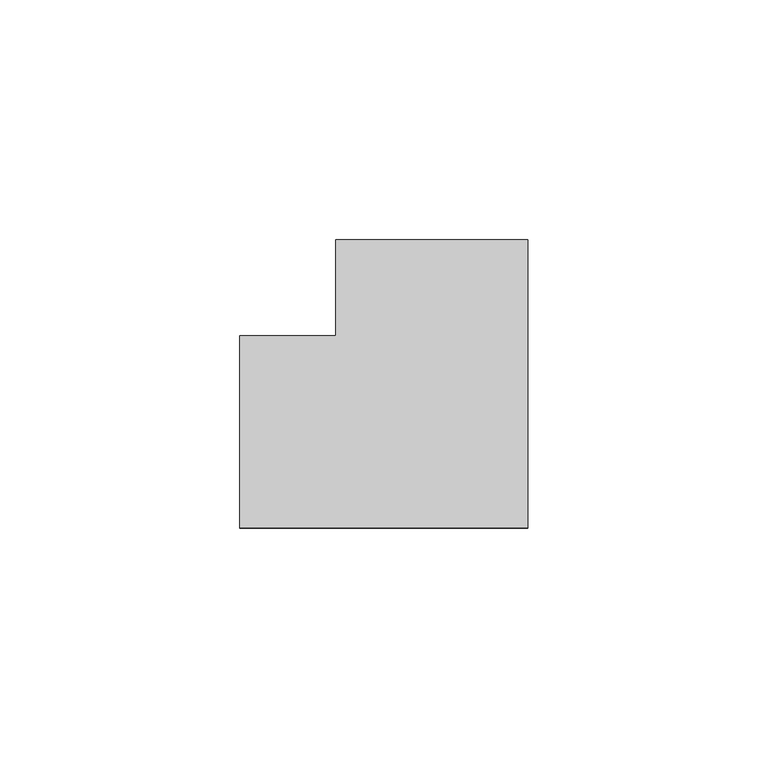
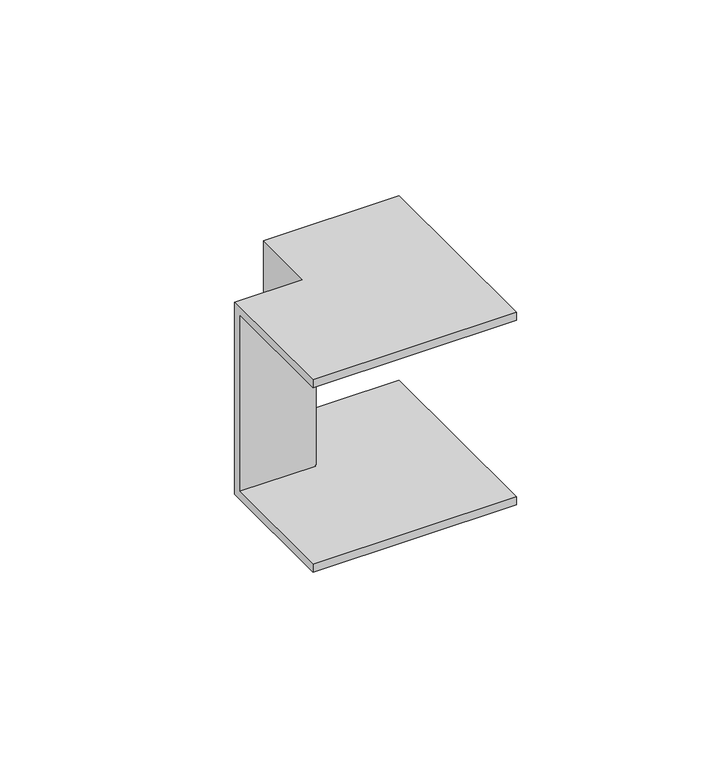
"""IFC4 building model written with IfcOpenShell, lengths in millimetres: cable carrier fitting geometry, КНС_УголВнешний_ILC_DKC : Угол внешний_DKC."""

import ifcopenshell
import ifcopenshell.guid

model = None  # the IFC model being written
_history = None  # IfcOwnerHistory: only IFC2X3 demands one
_inside = {}  # id of a spatial element -> (the spatial element, [elements in it])
_under = {}  # id of a project, library or spatial element -> (it, [spatial elements below it])
_declared = {}  # id of a project -> (the project, [libraries it declares])
_typed = {}  # id of a type object -> (the type object, [elements of that type])
_made_of = {}  # id of a material, layer set ... -> (it, [elements and type objects made of it])


def new_model(schema):
    """Start an empty IFC model of exactly this schema.

    Asked for "IFC4X3", IfcOpenShell would pick the latest addendum, in which some entities
    have other attributes; the version numbers below select the first issue.
    IFC2X3 requires an IfcOwnerHistory on every rooted entity: one is made here for all.
    """
    global model, _history
    if schema == "IFC4X3":
        model = ifcopenshell.file(schema_version=(4, 3, 0, 0))
    else:
        model = ifcopenshell.file(schema=schema)
    _inside.clear()
    _under.clear()
    _declared.clear()
    _typed.clear()
    _made_of.clear()
    _history = None
    if model.schema == "IFC2X3":
        org = make("IfcOrganization", Name="unknown")
        user = make(
            "IfcPersonAndOrganization",
            ThePerson=make("IfcPerson", FamilyName="unknown"),
            TheOrganization=org,
        )
        app = make(
            "IfcApplication",
            ApplicationDeveloper=org,
            Version="unknown",
            ApplicationFullName="unknown",
            ApplicationIdentifier="unknown",
        )
        _history = make(
            "IfcOwnerHistory",
            OwningUser=user,
            OwningApplication=app,
            ChangeAction="ADDED",
            CreationDate=0,
        )
    return model


def make(cls, **values):
    """One entity of the class cls with the attributes given. An attribute that is None is left unset."""
    return model.create_entity(
        cls, **{name: value for name, value in values.items() if value is not None}
    )


def rooted(cls, **values):
    """An entity with a GlobalId (a new one), such as an element, a storey or a relation."""
    return make(cls, GlobalId=ifcopenshell.guid.new(), OwnerHistory=_history, **values)


def si_unit(unit_type, name, prefix=None):
    """IfcSIUnit, for example si_unit("LENGTHUNIT", "METRE", prefix="MILLI")."""
    return make("IfcSIUnit", UnitType=unit_type, Prefix=prefix, Name=name)


def assignment(units):
    """IfcUnitAssignment: the units of a project."""
    return None if units is None else make("IfcUnitAssignment", Units=units)


def point(xyz):
    """IfcCartesianPoint."""
    return None if xyz is None else make("IfcCartesianPoint", Coordinates=xyz)


def direction(xyz):
    """IfcDirection."""
    return None if xyz is None else make("IfcDirection", DirectionRatios=xyz)


def frame(location, z_axis=None, x_axis=None):
    """IfcAxis2Placement3D, a coordinate frame: its origin and axes. An axis left out is left unset."""
    return make(
        "IfcAxis2Placement3D",
        Location=point(location),
        Axis=direction(z_axis),
        RefDirection=direction(x_axis),
    )


def origin():
    """The frame at (0, 0, 0) with its axes left unset."""
    return frame((0.0, 0.0, 0.0))


def place(relative_to, where):
    """IfcLocalPlacement: puts the frame where relative to a parent placement (None: the world)."""
    return make(
        "IfcLocalPlacement", PlacementRelTo=relative_to, RelativePlacement=where
    )


def context(
    kind, dimensions, precision=None, world=None, true_north=None, identifier=None
):
    """IfcGeometricRepresentationContext, for example the 3D "Model" context."""
    return make(
        "IfcGeometricRepresentationContext",
        ContextIdentifier=identifier,
        ContextType=kind,
        CoordinateSpaceDimension=dimensions,
        Precision=precision,
        WorldCoordinateSystem=world,
        TrueNorth=true_north,
    )


def project(units=None, contexts=None):
    """IfcProject with its units and contexts."""
    return rooted(
        "IfcProject",
        Name="project",
        RepresentationContexts=contexts,
        UnitsInContext=assignment(units),
    )


def spatial(cls, under=None, at=None, **own):
    """A site, building, storey or space (cls), placed at a placement, below another one or the project."""
    s = rooted(cls, ObjectPlacement=at, **own)
    if under is not None:
        _under.setdefault(under.id(), (under, []))[1].append(s)
    return s


def faces_of(points, faces, orient=None, outer=None):
    """IfcFace entities. A face is a list of loops; a loop is a list of indices into points, from 0.

    orient and outer hold one flag for each loop. By default every Orientation is true, the
    first loop of a face is its IfcFaceOuterBound and the others are IfcFaceBound.
    """
    made = []
    for i, loops in enumerate(faces):
        bounds = []
        for j, loop in enumerate(loops):
            is_outer = j == 0 if outer is None else outer[i][j]
            bounds.append(
                make(
                    "IfcFaceOuterBound" if is_outer else "IfcFaceBound",
                    Bound=make("IfcPolyLoop", Polygon=[points[k] for k in loop]),
                    Orientation=True if orient is None else orient[i][j],
                )
            )
        made.append(make("IfcFace", Bounds=bounds))
    return made


def faceted_brep(points, faces, orient=None, outer=None, voids=None):
    """IfcFacetedBrep: a solid bounded by flat faces; with voids (closed shells), ...WithVoids."""
    shared = [point(p) for p in points]
    hull = make("IfcClosedShell", CfsFaces=faces_of(shared, faces, orient, outer))
    if voids is None:
        return make("IfcFacetedBrep", Outer=hull)
    return make(
        "IfcFacetedBrepWithVoids",
        Outer=hull,
        Voids=[
            make(cls, CfsFaces=faces_of(shared, fs, o, b)) for cls, fs, o, b in voids
        ],
    )


def shape(context_of_items, identifier, shape_type, items):
    """IfcShapeRepresentation: the items that make up one representation, for example the "Body"."""
    return make(
        "IfcShapeRepresentation",
        ContextOfItems=context_of_items,
        RepresentationIdentifier=identifier,
        RepresentationType=shape_type,
        Items=items,
    )


def source(mapping_origin, context_of_items, identifier, shape_type, items):
    """IfcRepresentationMap: a shape defined once, which mapped items show again and again."""
    return make(
        "IfcRepresentationMap",
        MappingOrigin=mapping_origin,
        MappedRepresentation=shape(context_of_items, identifier, shape_type, items),
    )


def transform(
    local_origin,
    x_axis=None,
    y_axis=None,
    z_axis=None,
    scale=None,
    scale2=None,
    scale3=None,
    uniform=True,
):
    """IfcCartesianTransformationOperator3D, or its non-uniform kind. x_axis, y_axis, z_axis: its Axis1, 2, 3."""
    if uniform:
        return make(
            "IfcCartesianTransformationOperator3D",
            Axis1=direction(x_axis),
            Axis2=direction(y_axis),
            LocalOrigin=point(local_origin),
            Scale=scale,
            Axis3=direction(z_axis),
        )
    return make(
        "IfcCartesianTransformationOperator3DnonUniform",
        Axis1=direction(x_axis),
        Axis2=direction(y_axis),
        LocalOrigin=point(local_origin),
        Scale=scale,
        Axis3=direction(z_axis),
        Scale2=scale2,
        Scale3=scale3,
    )


def mapped(mapping_source, mapping_target):
    """IfcMappedItem: shows the shape of a source again, moved by a transform."""
    return make(
        "IfcMappedItem", MappingSource=mapping_source, MappingTarget=mapping_target
    )


def made_of(thing, what):
    """Note that an element or type object is made of a material, layer set ...; save() writes the relation."""
    if what is not None:
        _made_of.setdefault(what.id(), (what, []))[1].append(thing)
    return thing


def element(
    cls,
    number,
    at=None,
    inside=None,
    cuts=None,
    type_object=None,
    material=None,
    context=None,
    identifier="Body",
    shape_type=None,
    held_by="IfcProductDefinitionShape",
    body=None,
    shapes=None,
    **own,
):
    """One element of the class cls, such as IfcWall. Its Tag is "e" and its number.

    at: its placement. inside: the storey or other place that contains it. cuts: it is an
    opening in that element (IfcRelVoidsElement). A single representation is given by context,
    identifier, shape_type and body (its items); several are given by shapes. held_by: the class
    of the entity that holds the representations. save() writes the other relations.
    """
    e = rooted(cls, Tag="e%d" % number, ObjectPlacement=at, **own)
    if body is not None:
        shapes = [shape(context, identifier, shape_type, body)]
    if shapes is not None:
        e.Representation = make(held_by, Representations=shapes)
    if inside is not None:
        _inside.setdefault(inside.id(), (inside, []))[1].append(e)
    if cuts is not None:
        rooted(
            "IfcRelVoidsElement", RelatingBuildingElement=cuts, RelatedOpeningElement=e
        )
    if type_object is not None:
        _typed.setdefault(type_object.id(), (type_object, []))[1].append(e)
    return made_of(e, material)


def aggregate(whole, parts):
    """IfcRelAggregates: a whole, such as a stair, and the parts it consists of."""
    return rooted("IfcRelAggregates", RelatingObject=whole, RelatedObjects=parts)


def save(model, path):
    """Write the relations noted so far, then the file.

    IfcRelAggregates (storeys below a building ...), IfcRelContainedInSpatialStructure (elements
    in a storey), IfcRelDefinesByType, IfcRelAssociatesMaterial and IfcRelDeclares: one each for
    every whole, place, type object, material and project.
    """
    for whole, parts in _under.values():
        aggregate(whole, parts)
    for where, things in _inside.values():
        rooted(
            "IfcRelContainedInSpatialStructure",
            RelatedElements=things,
            RelatingStructure=where,
        )
    for kind, things in _typed.values():
        rooted("IfcRelDefinesByType", RelatedObjects=things, RelatingType=kind)
    for what, things in _made_of.values():
        rooted("IfcRelAssociatesMaterial", RelatedObjects=things, RelatingMaterial=what)
    for by, libraries in _declared.values():
        rooted("IfcRelDeclares", RelatingContext=by, RelatedDefinitions=libraries)
    model.write(path)


def cable_carrier_fitting_4b83aead(model_context):
    return source(origin(), model_context, "Body", "Brep", [
        faceted_brep([(-40.0, 20.0, 30.0), (-40.0, 20.0, -30.0), (-40.0, -20.0, -30.0), (-40.0, -20.0, -27.5), (-40.0, 17.5, -27.5), (-40.0, 17.5, 27.5), (-40.0, -20.0, 27.5), (-40.0, -20.0, 30.0), (-20.0, 40.0, 30.0), (20.0, 40.0, 30.0), (20.0, 40.0, 27.5), (-17.5, 40.0, 27.5), (-17.5, 40.0, -27.5), (20.0, 40.0, -27.5), (20.0, 40.0, -30.0), (-20.0, 40.0, -30.0), (-20.0, 20.0, 30.0), (-20.0, 20.0, -30.0), (20.0, -20.0, -30.0), (20.0, -20.0, -27.5), (-17.5, 17.5, -27.5), (-17.5, 17.5, 27.5), (20.0, -20.0, 27.5), (20.0, -20.0, 30.0)], [[[0, 1, 2, 3, 4, 5, 6, 7]], [[8, 9, 10, 11, 12, 13, 14, 15]], [[1, 0, 16, 17]], [[2, 1, 17, 15, 14, 18]], [[3, 2, 18, 19]], [[4, 3, 19, 13, 12, 20]], [[5, 4, 20, 21]], [[6, 5, 21, 11, 10, 22]], [[7, 6, 22, 23]], [[0, 7, 23, 9, 8, 16]], [[17, 16, 8, 15]], [[19, 18, 14, 13]], [[21, 20, 12, 11]], [[23, 22, 10, 9]]]),
    ])


if __name__ == "__main__":
    model = new_model("IFC4")
    model_context = context("Model", 3, world=origin())
    ifc_project = project(units=[si_unit("LENGTHUNIT", "METRE", prefix="MILLI")], contexts=[model_context])
    site = spatial("IfcSite", under=ifc_project)
    building = spatial("IfcBuilding", under=site)
    placement = place(None, origin())
    cable_carrier_fitting_shape = cable_carrier_fitting_4b83aead(model_context)
    element("IfcCableCarrierFitting", 1, ObjectType="КНС_УголВнешний_ILC_DKC : Угол внешний_DKC", at=placement, inside=building, context=model_context, shape_type="MappedRepresentation", body=[
        mapped(cable_carrier_fitting_shape, transform((0.0, 0.0, 0.0), x_axis=(1.0, 0.0, 0.0), y_axis=(0.0, 1.0, 0.0), z_axis=(0.0, 0.0, 1.0))),
    ])
    save(model, "model.ifc")
